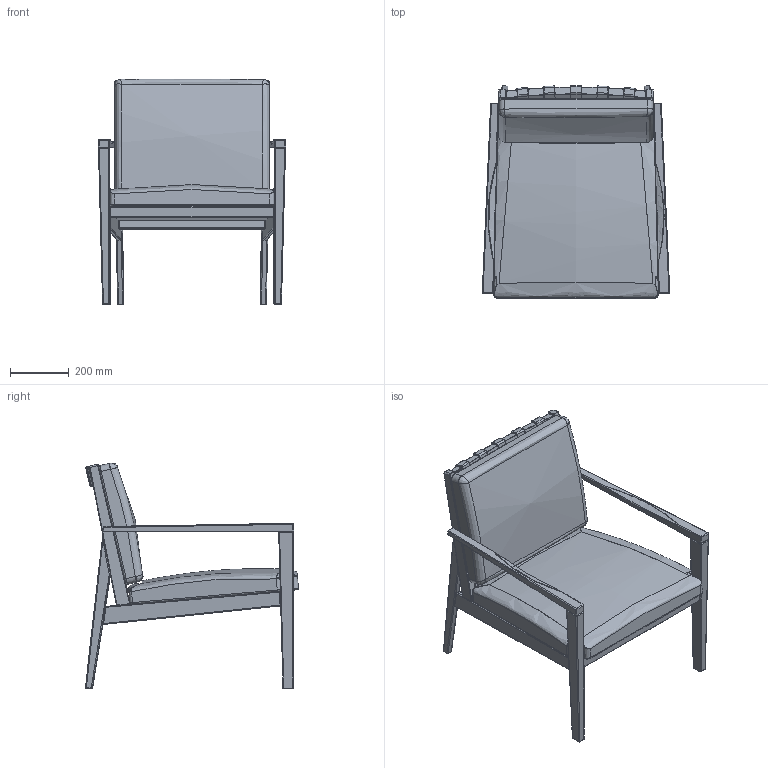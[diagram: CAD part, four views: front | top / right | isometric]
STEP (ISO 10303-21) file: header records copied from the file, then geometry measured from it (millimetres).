
FILE_DESCRIPTION(/* description */ (''),/* implementation_level */ '2;1');
FILE_NAME(/* name */ 'KINOSH~1',/* time_stamp */ '2019-07-19T11:43:47+09:00',/* author */ (''),/* organization */ (''),/* preprocessor_version */ 'ST-DEVELOPER v15',/* originating_system */ '',/* authorisation */ '');
FILE_SCHEMA (('AUTOMOTIVE_DESIGN'));
Length unit declared in the file: millimetre
Products named in the file (4): Document; ﾌﾞﾛｯｸ 110; ﾌﾞﾛｯｸ 111; ﾌﾞﾛｯｸ 112
Assembly tree (3 placements, depth 2):
  Document
    ﾌﾞﾛｯｸ 110
    ﾌﾞﾛｯｸ 111
    ﾌﾞﾛｯｸ 112
Bounding box: 639.57 x 725.59 x 769.54 mm (x, y, z)
Volume: 5406663.1 mm3; surface area: 2518250.6 mm2
Topology: 23 solids, 46 shells, 1172 faces, 2817 edges, 1382 vertices
Faces by surface type: bspline 984, plane 188
Entity records: 59836 total; most frequent: CARTESIAN_POINT 45503, ORIENTED_EDGE 4890, EDGE_CURVE 2594, VERTEX_POINT 1380, ADVANCED_FACE 1170, FACE_OUTER_BOUND 1170, EDGE_LOOP 1170, B_SPLINE_CURVE_WITH_KNOTS 1123
